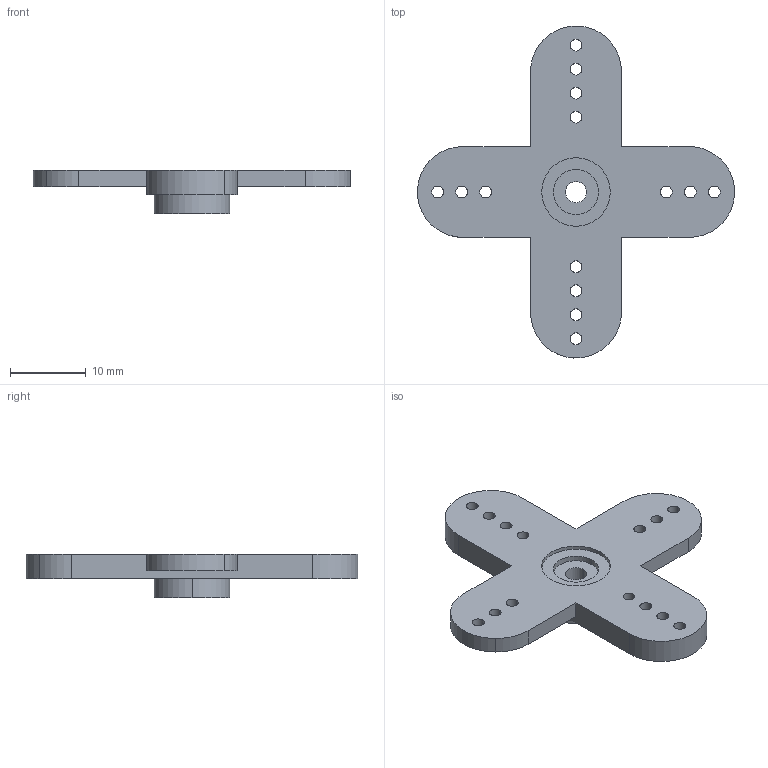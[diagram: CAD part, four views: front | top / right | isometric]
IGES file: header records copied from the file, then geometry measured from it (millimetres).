
Global section: file name: C:\Documents and Settings\Administrator\Desktop\Transfer Temp\servolink.igs; native system: AutoDesk Inventor R2.0 ; preprocessor: AutoDesk Inventor Iges Exporter R2.0; author: No Author specified; organization: No Organization specified; date: 20020113.163756; units: inch
Bounding box: 41.97 x 43.92 x 5.8 mm (x, y, z)
Surface area: 2392.7 mm2 (no closed solid volume)
Topology: 0 solids, 0 shells, 60 faces, 324 edges, 324 vertices
Faces by surface type: revolution 46, bspline 14
